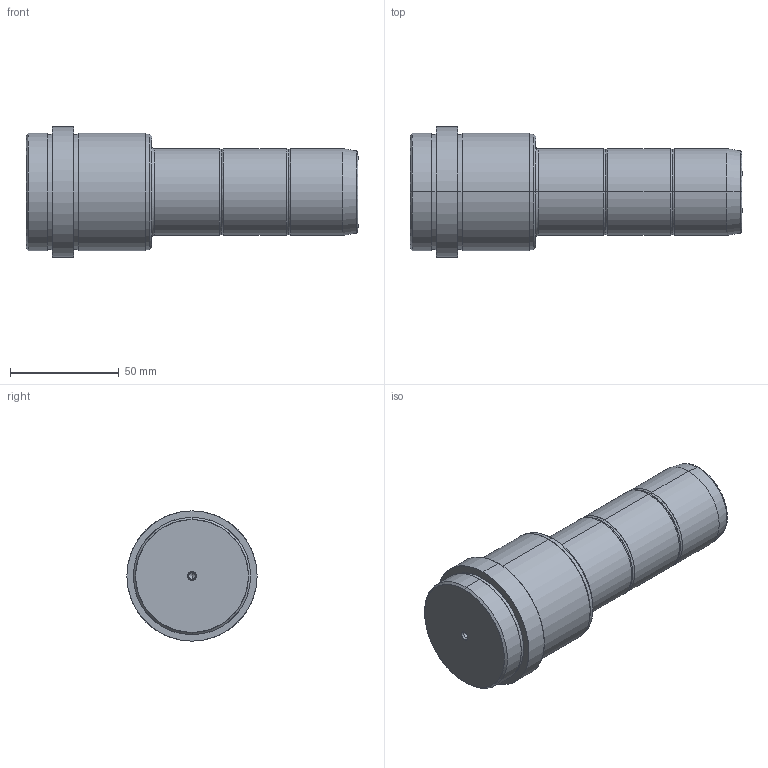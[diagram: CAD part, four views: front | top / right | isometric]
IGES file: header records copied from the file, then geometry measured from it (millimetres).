
Start section: SolidWorks IGES FILE using analytic representation for surfaces
Global section: file name: D:\zzzzz\Delta\D03\40\D03 - 40x46x95.IGS; native system: SolidWorks 2004 by SolidWorks Corporation; preprocessor: Version 5.3; author: Hkn; date: 080327.160858; units: millimetre
Bounding box: 153 x 60 x 60 mm (x, y, z)
Surface area: 27599.5 mm2 (no closed solid volume)
Topology: 0 solids, 0 shells, 56 faces, 1152 edges, 1148 vertices
Faces by surface type: revolution 36, bspline 20
